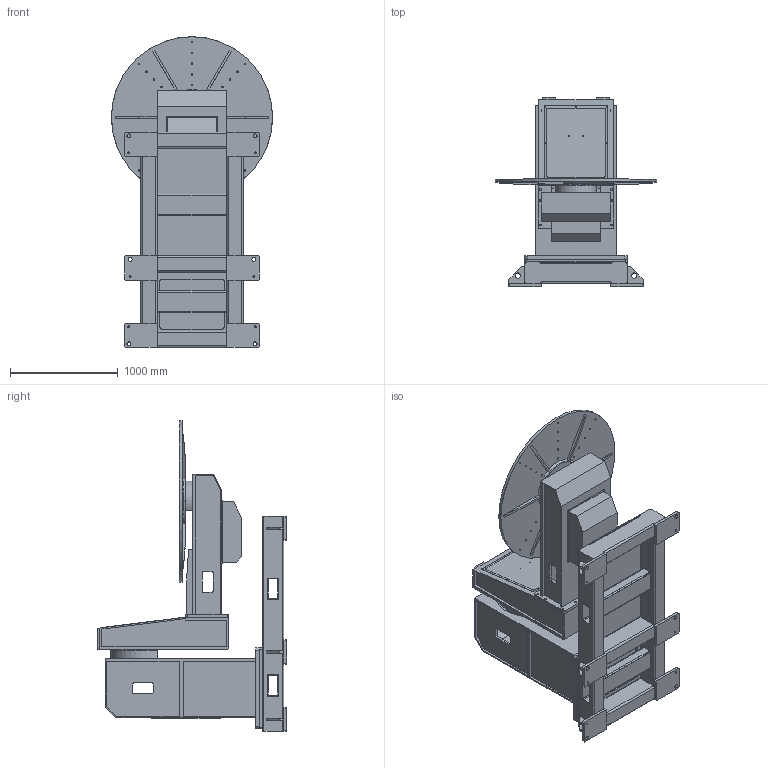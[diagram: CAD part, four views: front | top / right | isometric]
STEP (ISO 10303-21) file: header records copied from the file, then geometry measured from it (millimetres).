
FILE_DESCRIPTION (( 'STEP AP203' ), '1' );
FILE_NAME ('SYAC-DWP-L-0010T-X.STEP', '2020-04-23T05:29:21', ( 'Microsoft' ), ( 'Microsoft' ), 'SwSTEP 2.0', 'SolidWorks 2016', '' );
FILE_SCHEMA (( 'CONFIG_CONTROL_DESIGN' ));
Length unit declared in the file: millimetre
Products named in the file (1): SYAC-DWP-L-0010T-X
Bounding box: 1500 x 1758 x 2888 mm (x, y, z)
Surface area: 29198280.7 mm2 (no closed solid volume)
Topology: 0 solids, 34 shells, 596 faces, 2105 edges, 1484 vertices
Faces by surface type: plane 357, cylinder 190, torus 44, cone 5
Full cylindrical faces by diameter (mm): 7 x12, 14 x48, 16 x3, 17.5 x8, 18 x11, 22 x12, 23 x18, 35 x6, 50 x6, 100 x1, 170 x1, 240 x1, 490 x1, 1500 x1
Entity records: 23987 total; most frequent: CARTESIAN_POINT 5942, DIRECTION 3702, ORIENTED_EDGE 3249, EDGE_CURVE 1904, VERTEX_POINT 1417, AXIS2_PLACEMENT_3D 1289, VECTOR 1124, LINE 1124
